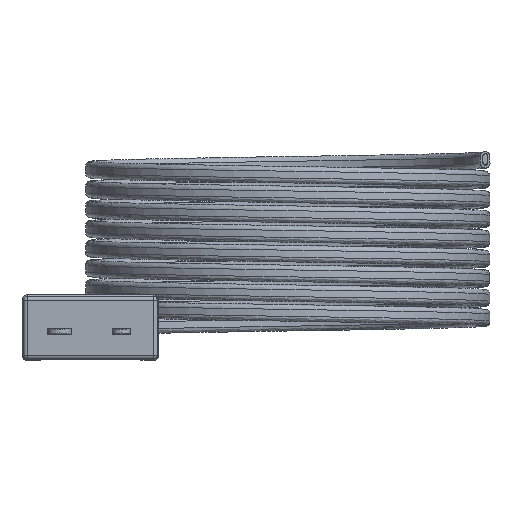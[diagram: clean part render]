
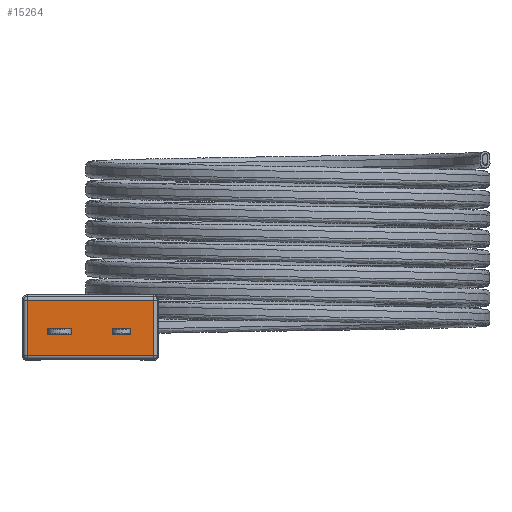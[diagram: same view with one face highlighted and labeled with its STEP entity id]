
A CAD part, front view. The second image highlights one B-rep face of the part: STEP entity #15264.
In plain terms, the highlighted planar face has unit normal (0, -1, 0).
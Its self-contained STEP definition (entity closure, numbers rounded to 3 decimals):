
#918 = DIRECTION ( 'NONE',  ( -1., 0., 0. ) ) ;
#1070 = VERTEX_POINT ( 'NONE', #15300 ) ;
#1465 = CARTESIAN_POINT ( 'NONE',  ( -8., 0., 3.5 ) ) ;
#1477 = CARTESIAN_POINT ( 'NONE',  ( -8.5, 0., 3.5 ) ) ;
#1857 = PLANE ( 'NONE',  #18593 ) ;
#2074 = VERTEX_POINT ( 'NONE', #2223 ) ;
#2223 = CARTESIAN_POINT ( 'NONE',  ( 8., 0., 3.5 ) ) ;
#2399 = CARTESIAN_POINT ( 'NONE',  ( 8., 0., 4. ) ) ;
#2497 = LINE ( 'NONE', #2399, #15910 ) ;
#4781 = DIRECTION ( 'NONE',  ( 0., 0., -1. ) ) ;
#7323 = EDGE_CURVE ( 'NONE', #17146, #1070, #16088, .T. ) ;
#8080 = DIRECTION ( 'NONE',  ( 0., 1., 0. ) ) ;
#8437 = EDGE_CURVE ( 'NONE', #2074, #17146, #15439, .T. ) ;
#9306 = EDGE_LOOP ( 'NONE', ( #14118, #10766, #16076, #12011 ) ) ;
#9406 = FACE_OUTER_BOUND ( 'NONE', #9306, .T. ) ;
#9451 = VECTOR ( 'NONE', #15136, 1000. ) ;
#9511 = VECTOR ( 'NONE', #4781, 1000. ) ;
#10766 = ORIENTED_EDGE ( 'NONE', *, *, #7323, .T. ) ;
#11625 = LINE ( 'NONE', #19553, #15237 ) ;
#12011 = ORIENTED_EDGE ( 'NONE', *, *, #16995, .T. ) ;
#12078 = DIRECTION ( 'NONE',  ( 0., 0., 1. ) ) ;
#12622 = VERTEX_POINT ( 'NONE', #17794 ) ;
#14118 = ORIENTED_EDGE ( 'NONE', *, *, #8437, .T. ) ;
#14305 = DIRECTION ( 'NONE',  ( 0., 0., 1. ) ) ;
#15136 = DIRECTION ( 'NONE',  ( -1., 0., 0. ) ) ;
#15237 = VECTOR ( 'NONE', #918, 1000. ) ;
#15264 = ADVANCED_FACE ( 'NONE', ( #9406 ), #1857, .F. ) ;
#15300 = CARTESIAN_POINT ( 'NONE',  ( -8., 0., -3.5 ) ) ;
#15439 = LINE ( 'NONE', #1477, #9451 ) ;
#15715 = CARTESIAN_POINT ( 'NONE',  ( 0., 0., 4. ) ) ;
#15910 = VECTOR ( 'NONE', #12078, 1000. ) ;
#16076 = ORIENTED_EDGE ( 'NONE', *, *, #17841, .F. ) ;
#16088 = LINE ( 'NONE', #18735, #9511 ) ;
#16995 = EDGE_CURVE ( 'NONE', #12622, #2074, #2497, .T. ) ;
#17146 = VERTEX_POINT ( 'NONE', #1465 ) ;
#17794 = CARTESIAN_POINT ( 'NONE',  ( 8., 0., -3.5 ) ) ;
#17841 = EDGE_CURVE ( 'NONE', #12622, #1070, #11625, .T. ) ;
#18593 = AXIS2_PLACEMENT_3D ( 'NONE', #15715, #8080, #14305 ) ;
#18735 = CARTESIAN_POINT ( 'NONE',  ( -8., 0., 0. ) ) ;
#19553 = CARTESIAN_POINT ( 'NONE',  ( -8.5, 0., -3.5 ) ) ;
